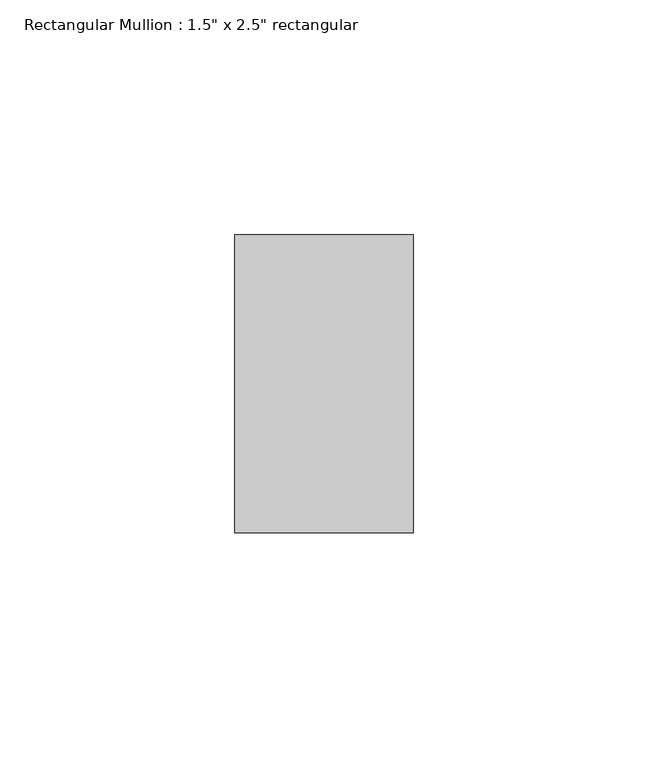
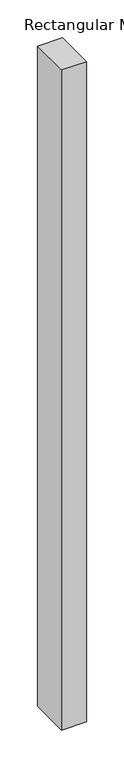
"""IFC4 building model written with IfcOpenShell, lengths in millimetres: member geometry."""

from ifc_helpers import new_model, si_unit, frame, origin, place, context, project, spatial, polyline, outline, extrude, source, transform, mapped, element, save


def member_1b704979(model_context):
    return source(origin(), model_context, "Body", "SweptSolid", [
        extrude(outline(polyline([(0.0, 31.75), (0.0, -31.75), (-38.1, -31.75), (-38.1, 31.75), (0.0, 31.75)])), frame((0.0, 0.0, -1066.8), z_axis=(0.0, 0.0, 1.0), x_axis=(1.0, 0.0, 0.0)), (0.0, 0.0, 1.0), 1066.8),
    ])


if __name__ == "__main__":
    model = new_model("IFC4")
    model_context = context("Model", 3, world=origin())
    ifc_project = project(units=[si_unit("LENGTHUNIT", "METRE", prefix="MILLI")], contexts=[model_context])
    site = spatial("IfcSite", under=ifc_project)
    building = spatial("IfcBuilding", under=site)
    placement = place(None, origin())
    member_shape = member_1b704979(model_context)
    element("IfcMember", 1, ObjectType="Rectangular Mullion : 1.5\" x 2.5\" rectangular", at=placement, inside=building, context=model_context, shape_type="MappedRepresentation", body=[
        mapped(member_shape, transform((0.0, 0.0, 0.0), x_axis=(1.0, 0.0, 0.0), y_axis=(0.0, 1.0, 0.0), z_axis=(0.0, 0.0, 1.0))),
    ])
    save(model, "model.ifc")
